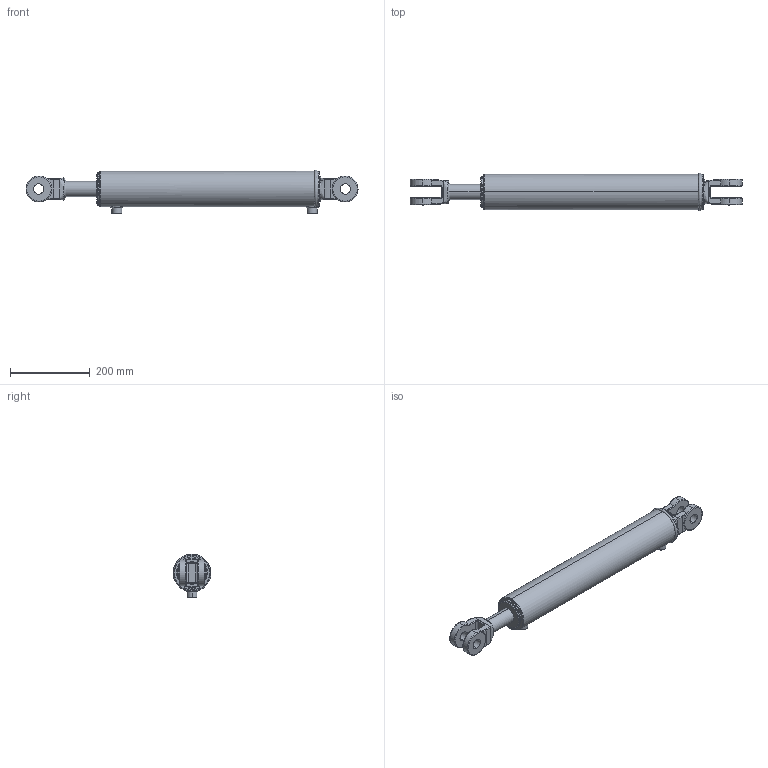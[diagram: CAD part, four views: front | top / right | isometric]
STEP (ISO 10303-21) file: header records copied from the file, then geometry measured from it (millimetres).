
FILE_DESCRIPTION (( 'STEP AP203' ), '1' );
FILE_NAME ('CL-CL300150x457 (18).STEP', '2014-11-21T23:27:59', ( '' ), ( '' ), 'SwSTEP 2.0', 'SolidWorks 2014', '' );
FILE_SCHEMA (( 'CONFIG_CONTROL_DESIGN' ));
Length unit declared in the file: millimetre
Products named in the file (4): CL-CL300150x  body_3x18; 3 in ext circlip; SPARE 6_18x1.5; CL-CL300150x457 (18)
Assembly tree (3 placements, depth 2):
  CL-CL300150x457 (18)
    CL-CL300150x  body_3x18
    3 in ext circlip
    SPARE 6_18x1.5
Bounding box: 831.39 x 94.87 x 109.9 mm (x, y, z)
Volume: 3965871.8 mm3; surface area: 357538.3 mm2
Topology: 3 solids, 3 shells, 212 faces, 515 edges, 316 vertices
Faces by surface type: cylinder 92, bspline 61, plane 37, torus 14, cone 8
Entity records: 11771 total; most frequent: CARTESIAN_POINT 6695, ORIENTED_EDGE 1022, DIRECTION 943, EDGE_CURVE 511, AXIS2_PLACEMENT_3D 393, VERTEX_POINT 316, CIRCLE 236, EDGE_LOOP 235
